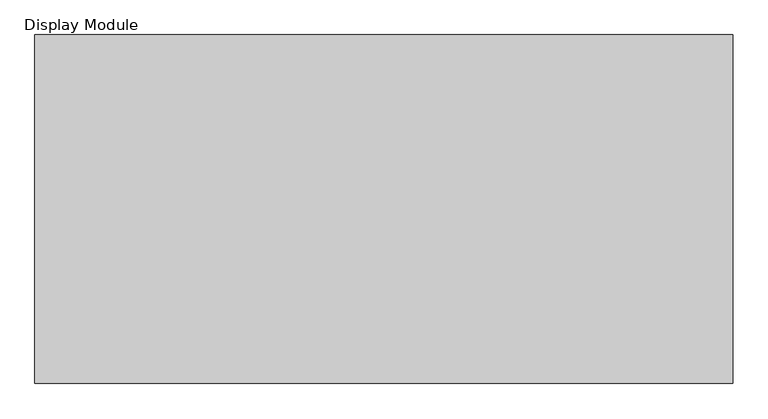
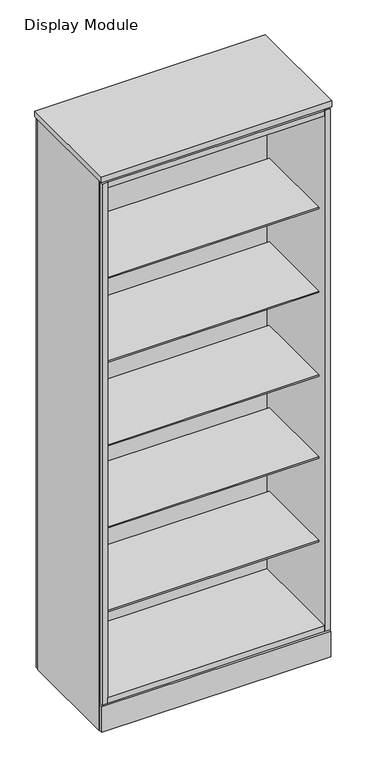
"""IFC4 building model written with IfcOpenShell, lengths in millimetres: furniture geometry, Furniture_Storage_Spacestor_SignatureStoragewall : Display Module."""

from ifc_helpers import new_model, si_unit, frame, origin, origin_with_axes, place, context, project, spatial, polyline, outline, extrude, source, transform, mapped, element, save


def display_module_cf8f66f0(model_context):
    return source(origin(), model_context, "Body", "SweptSolid", [
        extrude(outline(polyline([(996.5, 459.0), (3.5, 459.0), (3.5, 477.0), (996.5, 477.0), (996.5, 459.0)])), origin_with_axes(), (0.0, 0.0, 1.0), 2518.0),
        extrude(outline(polyline([(996.5, -18.0), (3.5, -18.0), (3.5, 0.0), (996.5, 0.0), (996.5, -18.0)])), origin_with_axes(), (0.0, 0.0, 1.0), 118.0),
        extrude(outline(polyline([(1000.0, -20.5), (0.0, -20.5), (0.0, 479.5), (1000.0, 479.5), (1000.0, -20.5)])), frame((0.0, 0.0, 2525.0), z_axis=(0.0, 0.0, 1.0), x_axis=(1.0, 0.0, 0.0)), (0.0, 0.0, 1.0), 25.5),
        extrude(outline(polyline([(1000.0, 0.0), (989.0, 0.0), (989.0, 459.0), (1000.0, 459.0), (1000.0, 0.0)])), origin_with_axes(), (0.0, 0.0, 1.0), 2532.5),
        extrude(outline(polyline([(11.0, 0.0), (0.0, 0.0), (0.0, 459.0), (11.0, 459.0), (11.0, 0.0)])), origin_with_axes(), (0.0, 0.0, 1.0), 2532.5),
        extrude(outline(polyline([(970.5, 25.0), (29.5, 25.0), (29.5, 398.0), (970.5, 398.0), (970.5, 25.0)])), frame((0.0, 0.0, 2039.0), z_axis=(0.0, 0.0, 1.0), x_axis=(1.0, 0.0, 0.0)), (0.0, 0.0, 1.0), 6.0),
        extrude(outline(polyline([(970.5, 25.0), (29.5, 25.0), (29.5, 398.0), (970.5, 398.0), (970.5, 25.0)])), frame((0.0, 0.0, 894.5), z_axis=(0.0, 0.0, 1.0), x_axis=(1.0, 0.0, 0.0)), (0.0, 0.0, 1.0), 6.0),
        extrude(outline(polyline([(970.5, 25.0), (29.5, 25.0), (29.5, 398.0), (970.5, 398.0), (970.5, 25.0)])), frame((0.0, 0.0, 510.5), z_axis=(0.0, 0.0, 1.0), x_axis=(1.0, 0.0, 0.0)), (0.0, 0.0, 1.0), 6.0),
        extrude(outline(polyline([(970.5, 25.0), (29.5, 25.0), (29.5, 398.0), (970.5, 398.0), (970.5, 25.0)])), frame((0.0, 0.0, 1655.0), z_axis=(0.0, 0.0, 1.0), x_axis=(1.0, 0.0, 0.0)), (0.0, 0.0, 1.0), 6.0),
        extrude(outline(polyline([(970.5, 25.0), (29.5, 25.0), (29.5, 398.0), (970.5, 398.0), (970.5, 25.0)])), frame((0.0, 0.0, 1271.0), z_axis=(0.0, 0.0, 1.0), x_axis=(1.0, 0.0, 0.0)), (0.0, 0.0, 1.0), 6.0),
        extrude(outline(polyline([(989.0, 0.0), (11.0, 0.0), (11.0, 459.0), (989.0, 459.0), (989.0, 0.0)])), frame((0.0, 0.0, 110.5), z_axis=(0.0, 0.0, 1.0), x_axis=(1.0, 0.0, 0.0)), (0.0, 0.0, 1.0), 22.0),
        extrude(outline(polyline([(989.0, 0.0), (11.0, 0.0), (11.0, 459.0), (989.0, 459.0), (989.0, 0.0)])), frame((0.0, 0.0, 2510.0), z_axis=(0.0, 0.0, 1.0), x_axis=(1.0, 0.0, 0.0)), (0.0, 0.0, 1.0), 22.0),
        extrude(outline(polyline([(970.5, -18.0), (29.5, -18.0), (29.5, 416.0), (970.5, 416.0), (970.5, -18.0)])), frame((0.0, 0.0, 125.5), z_axis=(0.0, 0.0, 1.0), x_axis=(1.0, 0.0, 0.0)), (0.0, 0.0, 1.0), 25.0),
        extrude(outline(polyline([(29.5, -18.0), (4.5, -18.0), (4.5, 416.0), (29.5, 416.0), (29.5, -18.0)])), frame((0.0, 0.0, 125.0), z_axis=(0.0, 0.0, 1.0), x_axis=(1.0, 0.0, 0.0)), (0.0, 0.0, 1.0), 2391.0),
        extrude(outline(polyline([(995.5, -18.0), (970.5, -18.0), (970.5, 416.0), (995.5, 416.0), (995.5, -18.0)])), frame((0.0, 0.0, 125.0), z_axis=(0.0, 0.0, 1.0), x_axis=(1.0, 0.0, 0.0)), (0.0, 0.0, 1.0), 2391.0),
        extrude(outline(polyline([(995.5, 416.0), (4.5, 416.0), (4.5, 434.0), (995.5, 434.0), (995.5, 416.0)])), frame((0.0, 0.0, 125.0), z_axis=(0.0, 0.0, 1.0), x_axis=(1.0, 0.0, 0.0)), (0.0, 0.0, 1.0), 2391.0),
        extrude(outline(polyline([(970.5, -18.0), (29.5, -18.0), (29.5, 416.0), (970.5, 416.0), (970.5, -18.0)])), frame((0.0, 0.0, 2490.5), z_axis=(0.0, 0.0, 1.0), x_axis=(1.0, 0.0, 0.0)), (0.0, 0.0, 1.0), 25.0),
    ])


if __name__ == "__main__":
    model = new_model("IFC4")
    model_context = context("Model", 3, world=origin())
    ifc_project = project(units=[si_unit("LENGTHUNIT", "METRE", prefix="MILLI")], contexts=[model_context])
    site = spatial("IfcSite", under=ifc_project)
    building = spatial("IfcBuilding", under=site)
    placement = place(None, origin())
    display_module_shape = display_module_cf8f66f0(model_context)
    element("IfcFurniture", 1, ObjectType="Furniture_Storage_Spacestor_SignatureStoragewall : Display Module", at=placement, inside=building, context=model_context, shape_type="MappedRepresentation", body=[
        mapped(display_module_shape, transform((0.0, 0.0, 0.0), x_axis=(1.0, 0.0, 0.0), y_axis=(0.0, 1.0, 0.0), z_axis=(0.0, 0.0, 1.0))),
    ])
    save(model, "model.ifc")
